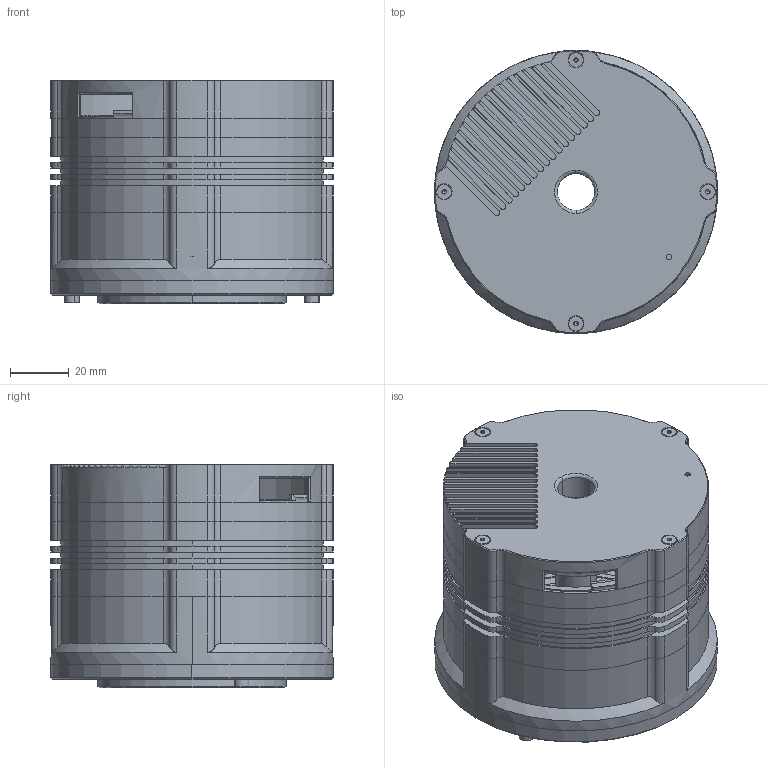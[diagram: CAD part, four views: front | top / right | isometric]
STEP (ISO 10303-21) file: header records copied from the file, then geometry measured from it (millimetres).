
FILE_DESCRIPTION (( 'STEP AP203' ), '1' );
FILE_NAME ('RMD-X8-P20-120 外形图.STEP', '2026-01-29T03:41:14', ( '微软用户' ), ( '微软中国' ), 'SwSTEP 2.0', 'SolidWorks 2020', '' );
FILE_SCHEMA (( 'CONFIG_CONTROL_DESIGN' ));
Length unit declared in the file: millimetre
Products named in the file (13): M2.5X14; RMD-X8-P20-120 俋倛芞; XMT.108.005_Default<偌樓馱>; XRBS608; XMT.105.013; 錨璃110_Default<偌樓馱>; 8MT.013.085_Default<偌樓馱>; 8MT.034.010_Default<偌樓馱>; 8MT.013.084-V1_Default<偌樓馱>; XMT.106.004; XMT.105.021; M2X4; M3X10
Assembly tree (20 placements, depth 2):
  RMD-X8-P20-120 俋倛芞
    XMT.108.005_Default<偌樓馱>
    XMT.106.004
    XMT.105.013
    XRBS608
    XMT.105.021
    錨璃110_Default<偌樓馱>  x2
    8MT.034.010_Default<偌樓馱>
    8MT.013.084-V1_Default<偌樓馱>
    8MT.013.085_Default<偌樓馱>
    M2X4  x2
    M3X10  x4
    M2.5X14  x4
Bounding box: 96 x 96 x 76 mm (x, y, z)
Volume: 135674.9 mm3; surface area: 128929.4 mm2
Topology: 20 solids, 20 shells, 1489 faces, 3781 edges, 2333 vertices
Faces by surface type: cylinder 827, cone 324, plane 292, torus 26, bspline 20
Entity records: 42256 total; most frequent: CARTESIAN_POINT 7698, DIRECTION 7617, ORIENTED_EDGE 6556, EDGE_CURVE 3278, AXIS2_PLACEMENT_3D 3177, VERTEX_POINT 2116, CIRCLE 1860, EDGE_LOOP 1536
